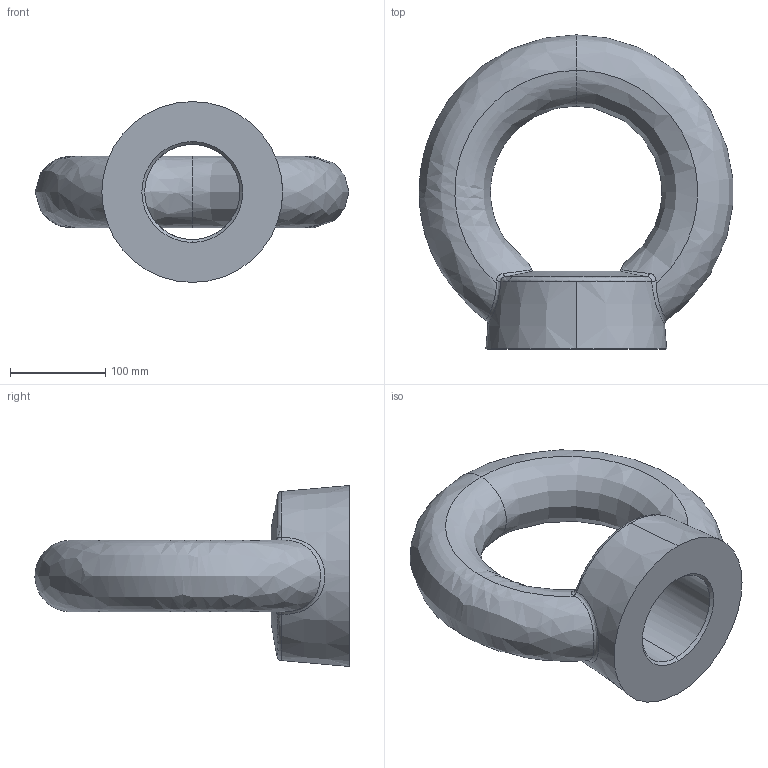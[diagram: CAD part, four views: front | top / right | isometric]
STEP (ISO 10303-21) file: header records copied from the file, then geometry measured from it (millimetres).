
FILE_DESCRIPTION (( 'STEP AP203' ), '1' );
FILE_NAME ('P4041.999-ZP.step', '2023-04-16T08:03:12', ( '' ), ( '' ), 'SwSTEP 2.0', 'SolidWorks 2019', '' );
FILE_SCHEMA (( 'CONFIG_CONTROL_DESIGN' ));
Length unit declared in the file: millimetre
Products named in the file (1): P4041.999-ZP
Bounding box: 329.41 x 329.96 x 190 mm (x, y, z)
Volume: 4229459 mm3; surface area: 246675.4 mm2
Topology: 1 solids, 1 shells, 27 faces, 69 edges, 41 vertices
Faces by surface type: bspline 14, cone 7, torus 3, cylinder 2, plane 1
Entity records: 3698 total; most frequent: CARTESIAN_POINT 3072, ORIENTED_EDGE 138, DIRECTION 87, EDGE_CURVE 69, VERTEX_POINT 41, AXIS2_PLACEMENT_3D 40, B_SPLINE_CURVE_WITH_KNOTS 34, EDGE_LOOP 28
